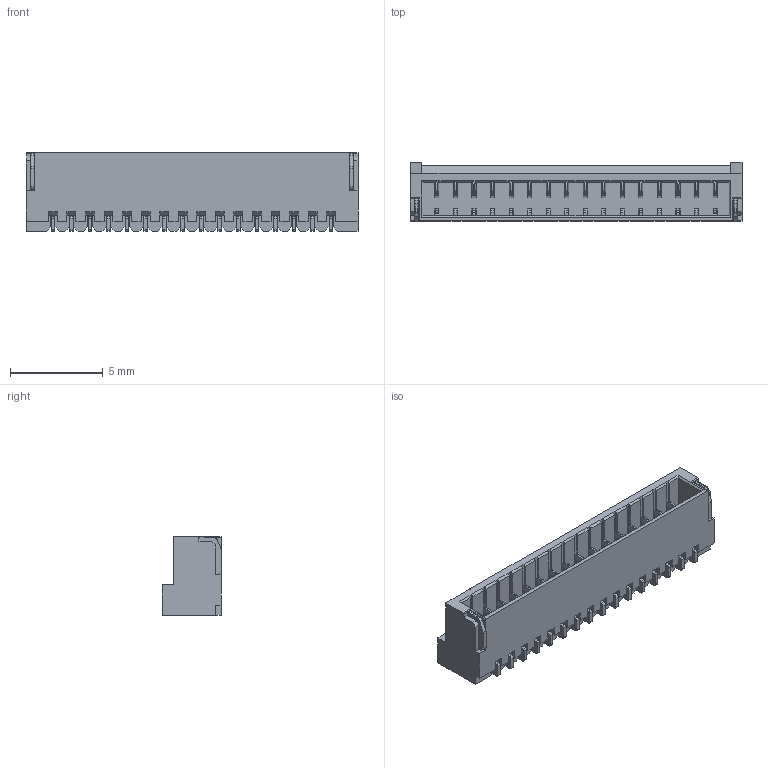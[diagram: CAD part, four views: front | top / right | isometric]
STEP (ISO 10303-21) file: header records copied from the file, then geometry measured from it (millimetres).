
FILE_DESCRIPTION((''),'2;1');
FILE_NAME('PRT0001','2023-04-04T',('k99883'),(''),'CREO PARAMETRIC BY PTC INC, 2016050','CREO PARAMETRIC BY PTC INC, 2016050','');
FILE_SCHEMA(('AP203_CONFIGURATION_CONTROLLED_3D_DESIGN_OF_MECHANICAL_PARTS_AND_ASSEMBLIES_MIM_LF { 1 0 10303 403 2 1 2 }'));
Length unit declared in the file: millimetre
Products named in the file (1): PRT0001
Bounding box: 17.9 x 3.23 x 4.25 mm (x, y, z)
Volume: 108.7 mm3; surface area: 598.5 mm2
Topology: 1 solids, 1 shells, 1141 faces, 3724 edges, 2436 vertices
Faces by surface type: plane 841, cylinder 300
Entity records: 41006 total; most frequent: CARTESIAN_POINT 7628, ORIENTED_EDGE 7304, DIRECTION 6468, EDGE_CURVE 3652, VECTOR 3100, LINE 3100, VERTEX_POINT 2364, AXIS2_PLACEMENT_3D 1684
